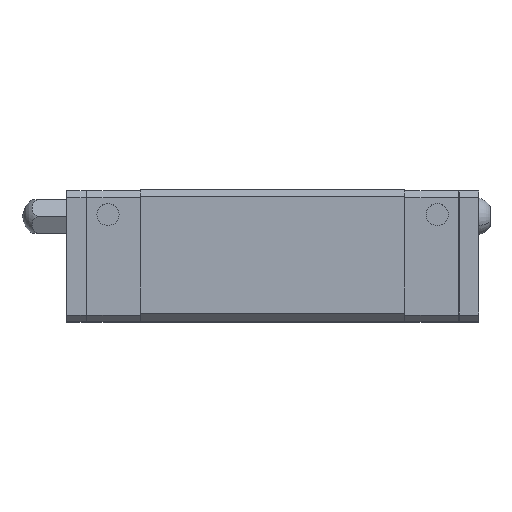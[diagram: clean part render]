
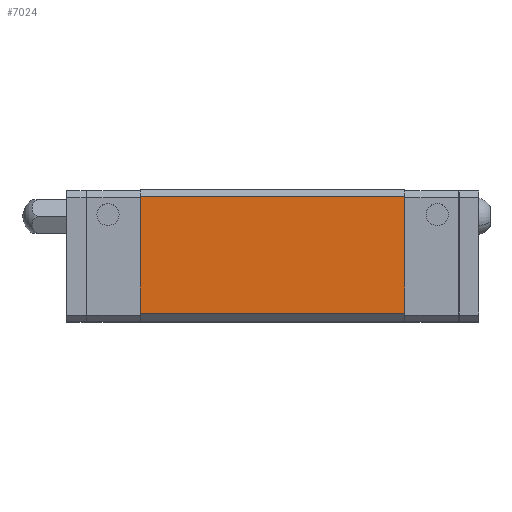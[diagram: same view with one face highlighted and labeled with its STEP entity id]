
A CAD part, top view. The second image highlights one B-rep face of the part: STEP entity #7024.
In plain terms, the highlighted planar face has unit normal (0, 0, 1).
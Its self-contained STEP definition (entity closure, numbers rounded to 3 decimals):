
#11 = VERTEX_POINT ( 'NONE', #7704 ) ;
#19 = PLANE ( 'NONE',  #5010 ) ;
#455 = VERTEX_POINT ( 'NONE', #9409 ) ;
#1133 = LINE ( 'NONE', #10844, #7957 ) ;
#1134 = VECTOR ( 'NONE', #1667, 1000. ) ;
#1463 = VECTOR ( 'NONE', #3731, 1000. ) ;
#1533 = EDGE_CURVE ( 'NONE', #10793, #3779, #7847, .T. ) ;
#1667 = DIRECTION ( 'NONE',  ( -1., 0., 0. ) ) ;
#1716 = FACE_OUTER_BOUND ( 'NONE', #8635, .T. ) ;
#2528 = DIRECTION ( 'NONE',  ( 0., -1., 0. ) ) ;
#2637 = ORIENTED_EDGE ( 'NONE', *, *, #8184, .T. ) ;
#3334 = LINE ( 'NONE', #10416, #3826 ) ;
#3731 = DIRECTION ( 'NONE',  ( 1., 0., 0. ) ) ;
#3779 = VERTEX_POINT ( 'NONE', #8555 ) ;
#3806 = DIRECTION ( 'NONE',  ( 0., -1., 0. ) ) ;
#3826 = VECTOR ( 'NONE', #2528, 1000. ) ;
#4016 = EDGE_CURVE ( 'NONE', #455, #3779, #1133, .T. ) ;
#4471 = EDGE_CURVE ( 'NONE', #455, #11, #7828, .T. ) ;
#5010 = AXIS2_PLACEMENT_3D ( 'NONE', #5366, #6966, #8856 ) ;
#5122 = ORIENTED_EDGE ( 'NONE', *, *, #4471, .T. ) ;
#5150 = CARTESIAN_POINT ( 'NONE',  ( -19.7, -9.4, 17. ) ) ;
#5257 = CARTESIAN_POINT ( 'NONE',  ( 19.7, 8., 17. ) ) ;
#5366 = CARTESIAN_POINT ( 'NONE',  ( -19.7, 12., 17. ) ) ;
#5788 = ORIENTED_EDGE ( 'NONE', *, *, #1533, .T. ) ;
#6966 = DIRECTION ( 'NONE',  ( 0., 0., 1. ) ) ;
#7024 = ADVANCED_FACE ( 'NONE', ( #1716 ), #19, .T. ) ;
#7704 = CARTESIAN_POINT ( 'NONE',  ( -19.7, 8., 17. ) ) ;
#7828 = LINE ( 'NONE', #5257, #1134 ) ;
#7847 = LINE ( 'NONE', #7899, #1463 ) ;
#7899 = CARTESIAN_POINT ( 'NONE',  ( -19.7, -9.4, 17. ) ) ;
#7957 = VECTOR ( 'NONE', #3806, 1000. ) ;
#8184 = EDGE_CURVE ( 'NONE', #11, #10793, #3334, .T. ) ;
#8555 = CARTESIAN_POINT ( 'NONE',  ( 19.7, -9.4, 17. ) ) ;
#8635 = EDGE_LOOP ( 'NONE', ( #5122, #2637, #5788, #9311 ) ) ;
#8856 = DIRECTION ( 'NONE',  ( 0., -1., 0. ) ) ;
#9311 = ORIENTED_EDGE ( 'NONE', *, *, #4016, .F. ) ;
#9409 = CARTESIAN_POINT ( 'NONE',  ( 19.7, 8., 17. ) ) ;
#10416 = CARTESIAN_POINT ( 'NONE',  ( -19.7, 8., 17. ) ) ;
#10793 = VERTEX_POINT ( 'NONE', #5150 ) ;
#10844 = CARTESIAN_POINT ( 'NONE',  ( 19.7, 8., 17. ) ) ;
